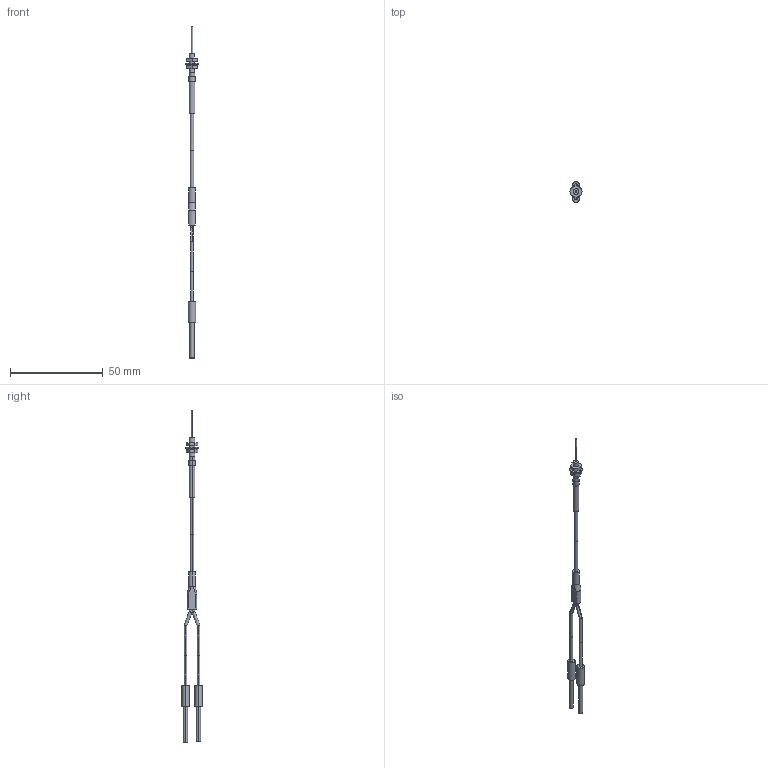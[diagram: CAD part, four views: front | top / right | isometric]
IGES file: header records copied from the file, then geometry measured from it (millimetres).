
Start section: SolidWorks IGES FILE using analytic representation for surfaces
Global section: file name: C:\Documents and Settings\yk0651\デスクトップ\3D_catalog_050904\0_IGES\FD-ENM1S1.IGS; native system: SolidWorks 2004 by SolidWorks Corporation; preprocessor: Version 5.3; author: yk0651; date: 050904.182606; units: millimetre
Bounding box: 6.5 x 11 x 178.5 mm (x, y, z)
Volume: 1393.1 mm3; surface area: 2293 mm2
Topology: 10 solids, 10 shells, 98 faces, 196 edges, 128 vertices
Faces by surface type: revolution 53, plane 45
